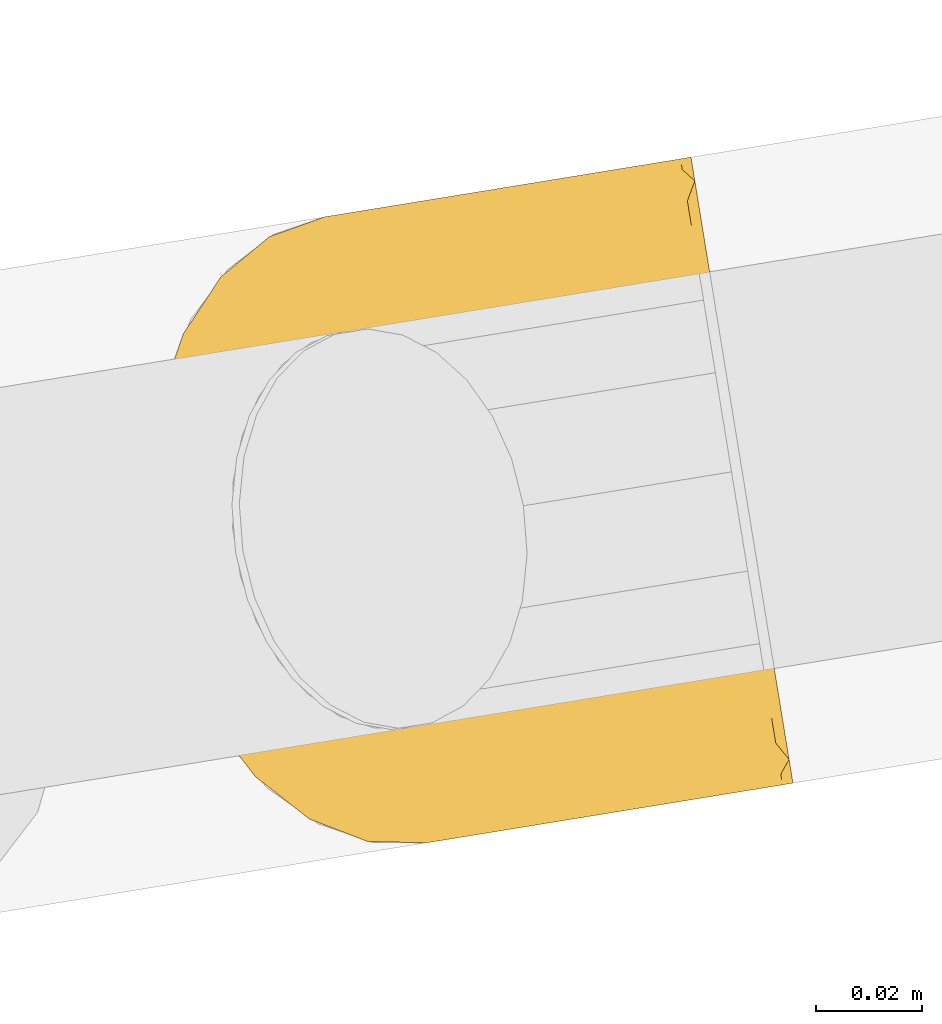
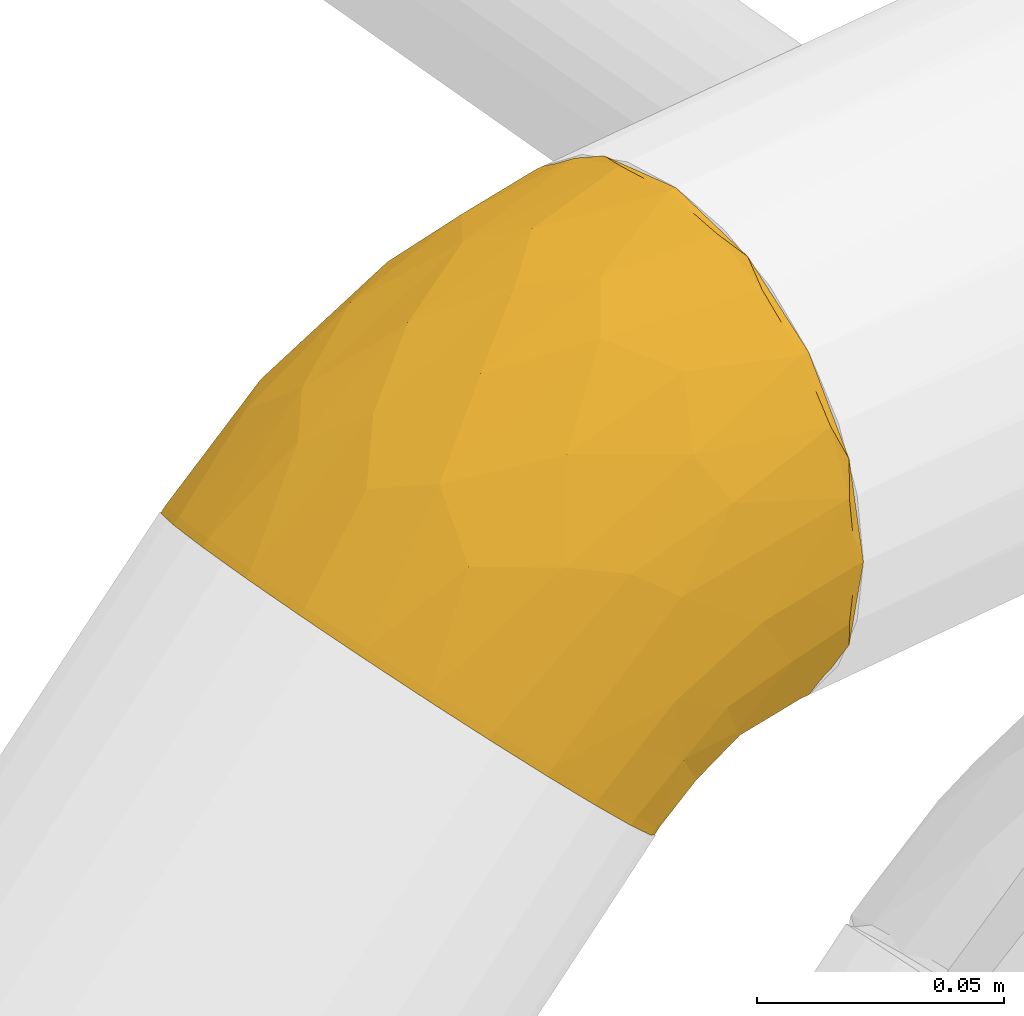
# One storey, part 12 of 56: 1 covering.
"""IFC2X3 building model written with IfcOpenShell, lengths in millimetres."""

from ifc_helpers import new_model, entity, si_unit, converted_unit, derived_unit, direction, frame, origin, origin_with_axes, place, context, subcontext, project, spatial, faceted_brep, material, type_object, element, save


model = new_model("IFC2X3")

# Units and contexts
model_context = context("Model", 3, precision=0.01, world=origin(), true_north=direction((6.12323399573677e-17, 1.0)))
plan_context = context("Plan", 3, precision=1e-05, world=origin_with_axes())
body_context = subcontext(model_context, "Body", "Model", "MODEL_VIEW")
ifc_project = project(units=[converted_unit("PLANEANGLEUNIT", "DEGREE", entity("IfcPositiveLengthMeasure", 0.0174532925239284), si_unit("PLANEANGLEUNIT", "RADIAN"), dimensions=[0, 0, 0, 0, 0, 0, 0]), si_unit("AREAUNIT", "SQUARE_METRE"), si_unit("LENGTHUNIT", "METRE", prefix="MILLI"), si_unit("MASSUNIT", "GRAM", prefix="KILO"), si_unit("POWERUNIT", "WATT"), si_unit("PRESSUREUNIT", "PASCAL", prefix="KILO"), si_unit("FORCEUNIT", "NEWTON", prefix="KILO"), si_unit("ELECTRICVOLTAGEUNIT", "VOLT"), si_unit("ELECTRICCURRENTUNIT", "AMPERE"), si_unit("THERMODYNAMICTEMPERATUREUNIT", "DEGREE_CELSIUS"), si_unit("TIMEUNIT", "SECOND"), si_unit("VOLUMEUNIT", "CUBIC_METRE"), derived_unit("LINEARVELOCITYUNIT", [(si_unit("LENGTHUNIT", "METRE"), 1), (si_unit("TIMEUNIT", "SECOND"), -1)]), derived_unit("VOLUMETRICFLOWRATEUNIT", [(si_unit("VOLUMEUNIT", "CUBIC_METRE"), 1), (si_unit("TIMEUNIT", "SECOND"), -1)]), derived_unit("THERMALTRANSMITTANCEUNIT", [(si_unit("POWERUNIT", "WATT"), 1), (si_unit("THERMODYNAMICTEMPERATUREUNIT", "KELVIN"), -1), (si_unit("AREAUNIT", "SQUARE_METRE"), -1)]), derived_unit("SOUNDPRESSUREUNIT", [(si_unit("PRESSUREUNIT", "PASCAL"), 1)])], contexts=[model_context, plan_context])

# Site, building, storey
site_placement = place(None, frame((-3.09682673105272e-06, 1.93776733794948e-05, 0.0), z_axis=(0.0, 0.0, 1.0), x_axis=(-0.160806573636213, 0.986985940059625, 0.0)))
site = spatial("IfcSite", under=ifc_project, at=site_placement, Name="Default", CompositionType="ELEMENT")
building_placement = place(site_placement, frame((0.0, 0.0, 0.0), z_axis=(0.0, 0.0, 1.0), x_axis=(1.0, -2.77555756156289e-17, 0.0)))
building = spatial("IfcBuilding", under=site, at=building_placement, Name="Bygning (endres i Project Information)", CompositionType="ELEMENT")
storey_placement = place(building_placement, frame((0.0, 0.0, 51360.0000000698), z_axis=(0.0, 0.0, 1.0), x_axis=(1.0, -2.77555756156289e-17, 0.0)))
storey = spatial("IfcBuildingStorey", under=building, at=storey_placement, Name="H01-Nivå D+0,36", CompositionType="ELEMENT", Elevation=51360.0000000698)

# Covering
ifc_material = material(Name="3700.001 Tur")
covering_type = type_object("IfcCoveringType", Name="Pipe Insulation:GLAVA avløpsisol. slange økende 19mm (15,5-25,0)", PredefinedType="INSULATION")
covering_placement = place(storey_placement, frame((1011826.7223707, -394901.958179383, 3661.64527223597), z_axis=(0.0, 0.0, 1.0), x_axis=(1.0, -2.77555756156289e-17, 0.0)))
element("IfcCovering", 1, at=covering_placement, inside=storey, type_object=covering_type, material=ifc_material, Name="Pipe Insulation:GLAVA avløpsisol. slange økende 19mm (15,5-25,0)", ObjectType="Pipe Insulation:GLAVA avløpsisol. slange økende 19mm (15,5-25,0)", PredefinedType="INSULATION", context=body_context, shape_type="Brep", body=[
    faceted_brep([(104.107034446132, 0.0, -104.107034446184), (110.615636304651, 0.0, -94.3662233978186), (117.124238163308, 0.0, -84.6254123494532), (119.409755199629, 0.0, -73.1353422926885), (121.695272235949, 0.0, -61.6452722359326), (119.409755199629, 0.0, -50.1552021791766), (117.124238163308, 0.0, -38.6651321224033), (110.615636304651, 0.0, -28.9243210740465), (104.107034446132, 0.0, -19.1835100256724), (94.3662233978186, 0.0, -12.6749081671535), (84.6254123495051, 0.0, -6.16630630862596), (73.1353422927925, 0.0, -3.88078927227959), (61.6452722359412, 0.0, -1.59527223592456), (50.15520217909, 0.0, -3.88078927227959), (38.6651321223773, 0.0, -6.16630630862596), (28.9243210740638, 0.0, -12.6749081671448), (19.1835100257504, 0.0, -19.1835100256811), (12.6749081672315, 0.0, -28.9243210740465), (6.16630630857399, 0.0, -38.6651321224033), (3.88078927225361, 0.0, -50.1552021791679), (1.59527223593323, 0.0, -61.6452722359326), (3.88078927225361, 0.0, -73.1353422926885), (6.16630630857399, 0.0, -84.6254123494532), (12.6749081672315, 0.0, -94.3662233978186), (19.1835100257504, 0.0, -104.107034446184), (28.9243210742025, 0.0, -110.615636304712), (38.6651321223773, 0.0, -117.124238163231), (50.1552021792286, 0.0, -119.409755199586), (61.6452722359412, 0.0, -121.695272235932), (73.1353422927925, 0.0, -119.409755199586), (84.6254123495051, 0.0, -117.124238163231), (94.3662233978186, 0.0, -110.615636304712), (38.8617304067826, 109.129743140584, -51.8439562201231), (46.1031885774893, 111.250717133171, -49.7229822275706), (53.2859395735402, 111.919376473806, -49.0543228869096), (61.6452722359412, 112.697566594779, -48.2761327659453), (69.4163140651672, 111.97414186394, -48.999557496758), (77.1873558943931, 111.250717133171, -49.7229822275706), (84.4288140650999, 109.129743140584, -51.8439562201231), (91.6702722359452, 107.008769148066, -53.9649302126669), (97.8886533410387, 103.63478676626, -57.3389125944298), (104.107034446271, 100.260804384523, -60.7128949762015), (108.878566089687, 95.8637449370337, -65.1099544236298), (113.650097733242, 91.4666854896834, -69.5070138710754), (116.649607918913, 86.3462013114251, -74.6274980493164), (119.649118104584, 81.2257171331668, -79.747982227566), (120.594745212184, 76.1467451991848, -84.8269541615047), (121.695272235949, 70.2358043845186, -90.7378949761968), (120.672195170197, 64.7408480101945, -96.2328513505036), (119.649118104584, 59.2458916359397, -101.727807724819), (116.649607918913, 54.1254074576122, -106.848291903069), (113.650097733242, 49.0049232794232, -111.968776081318), (108.878566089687, 44.6078638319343, -116.365835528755), (104.107034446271, 40.2108043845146, -120.762894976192), (97.8886533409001, 36.8368220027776, -124.136877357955), (91.6702722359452, 33.4628396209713, -127.510859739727), (84.4288140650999, 31.3418656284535, -129.631833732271), (77.1873558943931, 29.2208916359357, -131.752807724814), (70.0046048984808, 28.5522322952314, -132.421467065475), (61.6452722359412, 27.7740421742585, -133.19965718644), (53.8742304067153, 28.4974669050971, -132.476232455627), (46.1031885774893, 29.2208916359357, -131.752807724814), (38.861730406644, 31.3418656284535, -129.631833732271), (31.6202722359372, 33.4628396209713, -127.510859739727), (25.4018911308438, 36.8368220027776, -124.136877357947), (19.1835100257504, 40.2108043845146, -120.762894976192), (14.411978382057, 44.6078638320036, -116.365835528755), (9.64044673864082, 49.0049232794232, -111.968776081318), (6.64093655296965, 54.1254074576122, -106.848291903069), (3.64142636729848, 59.2458916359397, -101.727807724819), (2.69579925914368, 64.3248635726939, -96.6488357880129), (1.59527223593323, 70.2358043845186, -90.7378949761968), (2.61834930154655, 75.7307607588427, -85.2429386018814), (3.64142636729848, 81.2257171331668, -79.747982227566), (6.64093655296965, 86.3462013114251, -74.6274980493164), (9.64044673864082, 91.4666854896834, -69.5070138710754), (14.4119783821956, 95.8637449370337, -65.1099544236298), (19.1835100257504, 100.260804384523, -60.7128949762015), (25.4018911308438, 103.63478676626, -57.3389125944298), (31.6202722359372, 107.008769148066, -53.9649302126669), (77.1873558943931, 109.836503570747, -48.3087686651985), (61.6452722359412, 111.283353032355, -46.8619192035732), (70.004604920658, 110.505162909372, -47.640109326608), (91.6702722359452, 105.594555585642, -52.5507166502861), (84.4288140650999, 107.715529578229, -50.4297426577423), (97.8886533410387, 102.220573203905, -55.9246990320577), (104.107034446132, 98.8465908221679, -59.2986814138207), (113.650097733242, 90.0524719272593, -68.0928003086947), (108.878566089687, 94.4495313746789, -63.6957408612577), (119.649118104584, 79.8115035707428, -78.3337686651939), (116.649607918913, 84.931987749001, -73.2132844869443), (120.672195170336, 74.316547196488, -83.8287250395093), (121.695272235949, 68.8215908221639, -89.3236814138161), (119.649118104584, 57.8316780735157, -100.313594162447), (120.594745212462, 62.9106500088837, -95.2346222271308), (113.650097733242, 47.5907097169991, -110.554562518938), (116.649607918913, 52.7111938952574, -105.434078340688), (108.878566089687, 43.1936502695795, -114.951621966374), (104.107034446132, 38.7965908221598, -119.348681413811), (91.6702722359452, 32.0486260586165, -126.096646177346), (97.8886533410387, 35.4226084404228, -122.722663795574), (77.1873558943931, 27.8066780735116, -130.338594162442), (84.4288140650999, 29.9276520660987, -128.217620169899), (69.4163140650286, 27.0832533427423, -131.062018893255), (61.6452722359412, 26.3598286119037, -131.785443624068), (46.1031885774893, 27.8066780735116, -130.338594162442), (53.2859395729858, 27.1380187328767, -131.007253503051), (31.6202722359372, 32.0486260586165, -126.096646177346), (38.8617304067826, 29.9276520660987, -128.217620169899), (25.4018911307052, 35.4226084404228, -122.722663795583), (19.1835100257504, 38.7965908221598, -119.348681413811), (9.64044673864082, 47.5907097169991, -110.554562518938), (14.4119783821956, 43.1936502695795, -114.951621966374), (3.64142636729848, 57.8316780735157, -100.313594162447), (6.64093655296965, 52.7111938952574, -105.434078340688), (2.61834930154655, 63.3266344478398, -94.8186377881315), (1.59527223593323, 68.8215908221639, -89.3236814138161), (3.64142636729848, 79.8115035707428, -78.3337686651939), (2.69579925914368, 74.7325316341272, -83.4127406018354), (9.64044673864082, 90.0524719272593, -68.0928003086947), (6.64093655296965, 84.931987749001, -73.2132844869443), (14.4119783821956, 94.4495313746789, -63.6957408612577), (19.1835100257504, 98.8465908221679, -59.2986814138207), (31.6202722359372, 105.594555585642, -52.5507166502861), (25.4018911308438, 102.220573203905, -55.9246990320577), (46.1031885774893, 109.836503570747, -48.3087686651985), (38.8617304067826, 107.715529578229, -50.4297426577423), (53.8742304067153, 110.559928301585, -47.5853439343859), (72.6258967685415, 89.9958075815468, -30.3259299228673), (83.6955263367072, 79.9158648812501, -27.553806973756), (61.6452722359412, 79.2750000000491, -22.3010460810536), (97.3796746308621, 83.5689569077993, -38.982975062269), (96.3518923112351, 56.9168438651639, -23.5642897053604), (97.379675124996, 27.1682944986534, -15.621055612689), (91.6702722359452, 2.0, -9.64044673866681), (97.8886533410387, 2.0, -14.4119783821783), (104.107034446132, 2.0, -19.1835100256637), (61.6452722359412, 42.0004834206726, -6.86143578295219), (72.6258961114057, 28.7452798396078, -4.95513004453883), (73.3097514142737, 60.706020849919, -14.4164092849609), (121.695272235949, 26.4583997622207, -64.8652816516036), (118.828708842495, 45.1788837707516, -51.9022266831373), (119.649118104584, 2.0, -46.1031885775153), (121.695272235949, 49.2500000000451, -74.3058715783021), (121.695272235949, 58.5298628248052, -81.426560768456), (108.225039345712, 70.6591581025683, -42.9401803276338), (115.289777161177, 66.646321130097, -53.2870412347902), (114.249750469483, 43.7425996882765, -39.9544392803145), (113.650097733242, 2.0, -31.6202722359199), (116.649607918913, 2.0, -38.8617304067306), (77.1873558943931, 2.0, -3.64142636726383), (83.69552854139, 37.8330669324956, -10.1225411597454), (108.080709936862, 37.5870268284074, -28.4352186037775), (108.878566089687, 2.0, -25.4018911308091), (61.6452722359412, 2.0, -1.5952722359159), (69.4163140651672, 2.0, -2.61834930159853), (121.695272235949, 14.8614592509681, -63.3385154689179), (120.672195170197, 2.0, -53.8742304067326), (121.695272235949, 2.0, -61.6452722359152), (121.695272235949, 37.8541998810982, -69.5855766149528), (84.4288140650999, 2.0, -6.64093655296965), (119.742407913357, 30.6828818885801, -82.2032365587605), (119.125948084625, 44.9977489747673, -92.1211567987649), (111.562171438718, 36.391505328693, -105.62072424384), (110.13411071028, 14.1384462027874, -98.3294167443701), (101.122309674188, 25.8469233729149, -113.053707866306), (114.010831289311, 26.9160103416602, -95.9927132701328), (119.125947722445, 16.8678898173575, -80.4693880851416), (87.4575706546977, 17.4147750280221, -118.930718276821), (61.6452722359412, 15.183444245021, -124.317622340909), (100.654401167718, 13.38756641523, -108.645248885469), (119.649118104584, 2.0, -77.1873558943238), (116.649607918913, 2.0, -84.4288140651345), (113.650097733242, 2.0, -91.6702722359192), (91.6702722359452, 2.0, -113.650097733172), (74.8766013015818, 13.0214223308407, -121.951809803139), (61.6452722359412, 2.0, -121.695272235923), (84.4288140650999, 2.0, -116.649607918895), (77.1873558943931, 2.0, -119.649118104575), (69.4163140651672, 2.0, -120.672195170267), (104.107034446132, 2.0, -104.107034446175), (97.8886533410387, 2.0, -108.878566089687), (108.878566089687, 2.0, -97.888653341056), (120.672195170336, 2.0, -69.4163140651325), (22.6361442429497, 27.5353678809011, -114.505462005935), (35.8329738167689, 17.4147750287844, -118.930718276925), (22.1682361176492, 15.6080219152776, -108.812616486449), (31.6202722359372, 2.0, -113.650097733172), (25.4018911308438, 2.0, -108.878566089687), (19.1835100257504, 2.0, -104.107034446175), (48.4139428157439, 18.3851072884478, -124.1735208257), (3.54813650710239, 34.0030588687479, -83.5784987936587), (1.59527223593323, 49.2500000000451, -74.3058715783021), (4.16459638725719, 44.9977489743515, -92.1211567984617), (13.1564362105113, 34.2988104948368, -106.680118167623), (1.59527223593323, 58.5298628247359, -81.4265607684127), (9.27971287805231, 26.9160090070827, -95.9927121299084), (1.59527223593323, 14.8614592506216, -63.3385154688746), (3.64142636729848, 2.0, -77.1873558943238), (2.61834930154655, 2.0, -69.4163140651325), (1.59527223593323, 2.0, -61.6452722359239), (11.7283741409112, 13.4077894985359, -96.1005578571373), (4.16459674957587, 16.8678898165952, -80.4693880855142), (53.8742304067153, 2.0, -120.672195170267), (46.1031885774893, 2.0, -119.649118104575), (9.64044673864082, 2.0, -91.6702722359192), (6.64093655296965, 2.0, -84.4288140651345), (38.8617304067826, 2.0, -116.649607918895), (14.411978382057, 2.0, -97.8886533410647), (1.59527223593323, 26.4583997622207, -64.8652816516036), (1.59527223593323, 37.8541998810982, -69.5855766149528), (4.46183562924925, 45.1788837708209, -51.9022266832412), (39.5950181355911, 79.9158648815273, -27.55380697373), (25.910869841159, 83.5689569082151, -38.9829750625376), (26.9386521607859, 56.9168438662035, -23.5642897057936), (39.5950159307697, 37.8330669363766, -10.1225411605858), (31.6202722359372, 2.0, -9.64044673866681), (38.8617304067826, 2.0, -6.64093655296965), (46.1031885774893, 2.0, -3.64142636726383), (15.2098344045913, 67.1408175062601, -40.6767997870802), (50.6646477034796, 89.9958075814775, -30.3259299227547), (49.9807930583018, 60.7060208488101, -14.4164092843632), (15.0655052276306, 33.4987326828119, -27.5478278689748), (25.9108693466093, 27.1682944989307, -15.6210556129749), (3.64142636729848, 2.0, -46.1031885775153), (2.61834930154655, 2.0, -53.8742304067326), (9.04079391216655, 54.6428511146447, -44.4694714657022), (50.6646483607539, 28.7452798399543, -4.95513004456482), (19.1835100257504, 2.0, -19.1835100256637), (9.64044673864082, 2.0, -31.6202722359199), (14.4119783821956, 2.0, -25.4018911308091), (25.4018911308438, 2.0, -14.4119783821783), (8.00076732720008, 29.0199015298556, -37.7016677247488), (6.64093655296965, 2.0, -38.8617304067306), (53.8742304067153, 2.0, -2.61834930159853)], [[[0, 1, 2, 3, 4, 5, 6, 7, 8, 9, 10, 11, 12, 13, 14, 15, 16, 17, 18, 19, 20, 21, 22, 23, 24, 25, 26, 27, 28, 29, 30, 31]], [[32, 33, 34, 35, 36, 37, 38, 39, 40, 41, 42, 43, 44, 45, 46, 47, 48, 49, 50, 51, 52, 53, 54, 55, 56, 57, 58, 59, 60, 61, 62, 63, 64, 65, 66, 67, 68, 69, 70, 71, 72, 73, 74, 75, 76, 77, 78, 79]], [[80, 37, 36, 35, 81, 82]], [[83, 39, 38, 37, 80, 84]], [[40, 39, 83, 85, 86, 41]], [[87, 43, 42, 41, 86, 88]], [[89, 45, 44, 43, 87, 90]], [[46, 45, 89, 91, 92, 47]], [[93, 49, 48, 47, 92, 94]], [[95, 51, 50, 49, 93, 96]], [[52, 51, 95, 97, 98, 53]], [[99, 55, 54, 53, 98, 100]], [[101, 57, 56, 55, 99, 102]], [[58, 57, 101, 103, 104, 59]], [[105, 61, 60, 59, 104, 106]], [[107, 63, 62, 61, 105, 108]], [[64, 63, 107, 109, 110, 65]], [[111, 67, 66, 65, 110, 112]], [[113, 69, 68, 67, 111, 114]], [[70, 69, 113, 115, 116, 71]], [[117, 73, 72, 71, 116, 118]], [[119, 75, 74, 73, 117, 120]], [[76, 75, 119, 121, 122, 77]], [[123, 79, 78, 77, 122, 124]], [[125, 33, 32, 79, 123, 126]], [[34, 33, 125, 127, 81, 35]], [[80, 128, 129]], [[81, 130, 128]], [[131, 86, 85, 83]], [[129, 132, 131]], [[133, 134, 135, 136]], [[137, 138, 139]], [[139, 130, 137]], [[140, 141, 142]], [[89, 143, 144, 92, 91]], [[143, 89, 141]], [[129, 83, 84, 80]], [[145, 146, 87]], [[145, 87, 88, 86]], [[147, 148, 149, 142]], [[150, 151, 138]], [[132, 129, 151]], [[152, 136, 153, 148]], [[134, 133, 151]], [[151, 129, 139]], [[138, 154, 155, 150]], [[132, 152, 145]], [[151, 133, 132]], [[146, 89, 90, 87]], [[156, 140, 142, 157, 158]], [[141, 140, 159, 143]], [[142, 141, 147]], [[145, 131, 132]], [[129, 131, 83]], [[133, 152, 132]], [[146, 147, 141]], [[152, 133, 136]], [[151, 150, 160, 134]], [[128, 139, 129]], [[145, 86, 131]], [[147, 145, 152]], [[89, 146, 141]], [[145, 147, 146]], [[148, 147, 152]], [[128, 80, 82, 81]], [[139, 128, 130]], [[139, 138, 151]], [[154, 138, 137]], [[143, 161, 162]], [[143, 162, 144]], [[163, 98, 97, 95]], [[144, 162, 93]], [[164, 165, 166]], [[161, 167, 166]], [[165, 99, 100, 98]], [[165, 168, 99]], [[162, 95, 96, 93]], [[169, 104, 103, 101]], [[168, 101, 102, 99]], [[163, 165, 98]], [[161, 143, 159, 140]], [[167, 164, 166]], [[168, 165, 170]], [[167, 171, 172, 173]], [[163, 162, 166]], [[167, 156, 171]], [[164, 167, 173]], [[168, 170, 174]], [[161, 140, 167]], [[169, 175, 176]], [[168, 174, 177, 178]], [[101, 168, 175]], [[178, 175, 168]], [[175, 178, 179, 176]], [[170, 180, 181, 174]], [[164, 170, 165]], [[162, 163, 95]], [[180, 170, 164]], [[165, 163, 166]], [[164, 173, 182, 180]], [[144, 93, 94, 92]], [[156, 167, 140]], [[156, 158, 183, 171]], [[101, 175, 169]], [[162, 161, 166]], [[184, 185, 186]], [[186, 187, 188, 189]], [[105, 190, 185]], [[191, 192, 193]], [[194, 184, 186]], [[184, 110, 109, 107]], [[193, 195, 113]], [[194, 186, 196]], [[193, 113, 114, 111]], [[197, 198, 199, 200]], [[191, 193, 196]], [[201, 202, 196]], [[104, 169, 190]], [[186, 201, 196]], [[169, 176, 203, 204]], [[185, 184, 107]], [[185, 107, 108, 105]], [[202, 205, 206, 198]], [[185, 204, 207, 187]], [[187, 186, 185]], [[184, 194, 110]], [[201, 189, 208, 205]], [[201, 186, 189]], [[191, 202, 209]], [[209, 202, 197]], [[202, 198, 197]], [[209, 210, 192, 191]], [[194, 193, 111]], [[194, 111, 112, 110]], [[204, 185, 190]], [[202, 201, 205]], [[193, 194, 196]], [[195, 193, 192]], [[195, 116, 115, 113]], [[190, 105, 106, 104]], [[204, 190, 169]], [[202, 191, 196]], [[117, 192, 211]], [[212, 213, 214]], [[195, 192, 117, 118, 116]], [[215, 216, 217, 218]], [[219, 213, 122]], [[213, 219, 214]], [[220, 81, 127, 125]], [[212, 215, 221]], [[212, 125, 126, 123]], [[222, 223, 214]], [[213, 123, 124, 122]], [[123, 213, 212]], [[220, 221, 130]], [[219, 122, 121, 119]], [[211, 192, 210, 209]], [[215, 223, 216]], [[224, 209, 197, 200, 225]], [[117, 211, 226]], [[219, 222, 214]], [[215, 227, 221]], [[222, 228, 223]], [[222, 229, 230, 228]], [[212, 220, 125]], [[223, 228, 231, 216]], [[154, 137, 227]], [[218, 227, 215]], [[222, 232, 229]], [[223, 215, 214]], [[221, 137, 130]], [[232, 224, 233, 229]], [[214, 215, 212]], [[224, 211, 209]], [[232, 226, 211]], [[226, 119, 120, 117]], [[226, 222, 219]], [[224, 232, 211]], [[222, 226, 232]], [[119, 226, 219]], [[227, 218, 234, 154]], [[221, 227, 137]], [[221, 220, 212]], [[81, 220, 130]], [[155, 154, 12]], [[157, 142, 5]], [[157, 4, 158]], [[10, 9, 134]], [[10, 134, 160, 150]], [[10, 150, 11]], [[8, 135, 9]], [[12, 11, 155]], [[135, 8, 136]], [[11, 150, 155]], [[4, 157, 5]], [[6, 142, 149, 148]], [[153, 7, 148]], [[153, 8, 7]], [[6, 148, 7]], [[8, 153, 136]], [[135, 134, 9]], [[6, 5, 142]], [[183, 158, 4]], [[179, 178, 29]], [[179, 28, 176]], [[2, 1, 173]], [[2, 173, 172, 171]], [[2, 171, 3]], [[0, 182, 1]], [[4, 3, 183]], [[182, 0, 180]], [[3, 171, 183]], [[28, 179, 29]], [[30, 178, 177, 174]], [[181, 31, 174]], [[181, 0, 31]], [[30, 174, 31]], [[0, 181, 180]], [[182, 173, 1]], [[30, 29, 178]], [[203, 176, 28]], [[199, 198, 21]], [[199, 20, 200]], [[26, 25, 187]], [[26, 187, 207, 204]], [[26, 204, 27]], [[24, 188, 25]], [[28, 27, 203]], [[188, 24, 189]], [[27, 204, 203]], [[20, 199, 21]], [[22, 198, 206, 205]], [[208, 23, 205]], [[208, 24, 23]], [[22, 205, 23]], [[24, 208, 189]], [[188, 187, 25]], [[22, 21, 198]], [[225, 200, 20]], [[234, 218, 13]], [[234, 12, 154]], [[18, 17, 229]], [[18, 229, 233, 224]], [[18, 224, 19]], [[16, 230, 17]], [[20, 19, 225]], [[230, 16, 228]], [[19, 224, 225]], [[12, 234, 13]], [[14, 218, 217, 216]], [[231, 15, 216]], [[231, 16, 15]], [[14, 216, 15]], [[16, 231, 228]], [[230, 229, 17]], [[14, 13, 218]]]),
])

save(model, "model.ifc")
